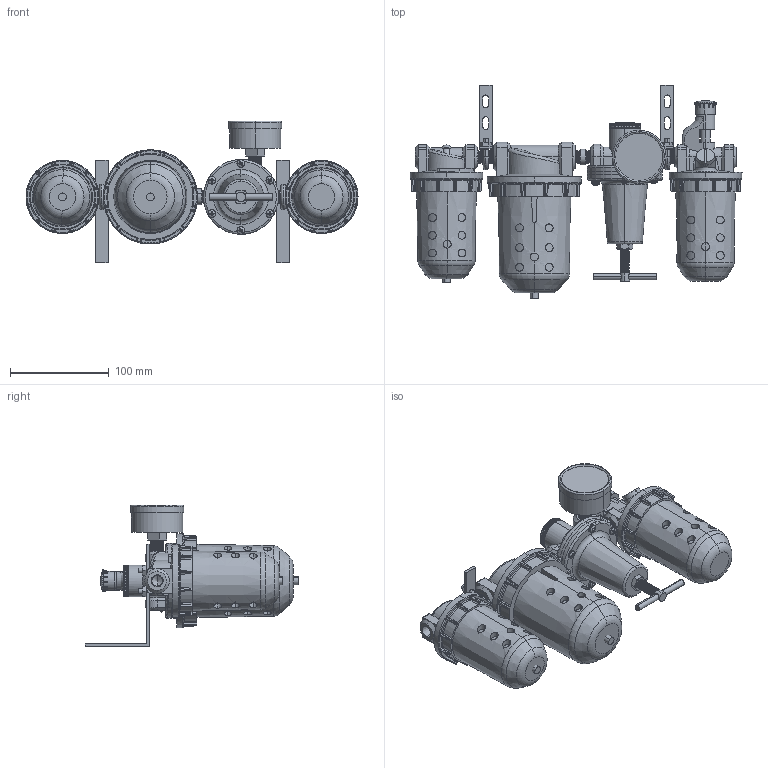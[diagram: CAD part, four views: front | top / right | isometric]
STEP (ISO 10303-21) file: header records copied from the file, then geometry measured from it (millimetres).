
FILE_DESCRIPTION (( 'STEP AP203' ), '1' );
FILE_NAME ('A728##-02YB#.STEP', '2016-01-14T17:48:35', ( '' ), ( '' ), 'SwSTEP 2.0', 'SolidWorks 2014', '' );
FILE_SCHEMA (( 'CONFIG_CONTROL_DESIGN' ));
Length unit declared in the file: millimetre
Products named in the file (27): 1-4-圓; L606-W-06-5; 50-P-AD=1-4PT-2; L型; R119-02-1; L606-W-06-3; R119-02-6; F602-02-2; R119-02-5; R119-02-3; F602-02(04)-上; R119-02-4; F602-04-下; F602-02(04)#YB#; ISO 7045 - M4 x 16; F602-02#YB#; L606-02; R119-02-7; F602-02-1; 50-P-AD=1-4PT-1; 50-P-AD=1-4PT.SLDPRT; L606-W-06-4; L606-W-04-1; R119-02-2; R119-02-無固定架; A728##-02YB#
Assembly tree (37 placements, depth 4):
  A728##-02YB#
    F602-02#YB#
      F602-02-1
      F602-02-2
      L606-W-06-5
    1-4-圓  x3
    F602-02(04)#YB#
      L606-W-06-5
      F602-04-下
      F602-02(04)-上
    L606-02
      L606-W-06-4
      L606-W-06-3  x2
      L606-W-04-1
      L606-02
    L型  x2
    R119-02-無固定架
      R119-02-1
      R119-02-2
      R119-02-3
      R119-02-4
      ISO 7045 - M4 x 16  x7
      R119-02-5
      R119-02-6
      R119-02-7
      50-P-AD=1-4PT.SLDPRT
        50-P-AD=1-4PT-1
        50-P-AD=1-4PT-2
Bounding box: 337 x 217.08 x 144 mm (x, y, z)
Volume: 1592656.9 mm3; surface area: 233136.3 mm2
Topology: 38 solids, 38 shells, 2209 faces, 5449 edges, 3281 vertices
Faces by surface type: plane 688, cylinder 515, cone 449, bspline 317, torus 136, sphere 104
Entity records: 80818 total; most frequent: CARTESIAN_POINT 38452, ORIENTED_EDGE 8910, DIRECTION 7345, EDGE_CURVE 4455, AXIS2_PLACEMENT_3D 3020, VERTEX_POINT 2715, EDGE_LOOP 1938, FACE_OUTER_BOUND 1849
